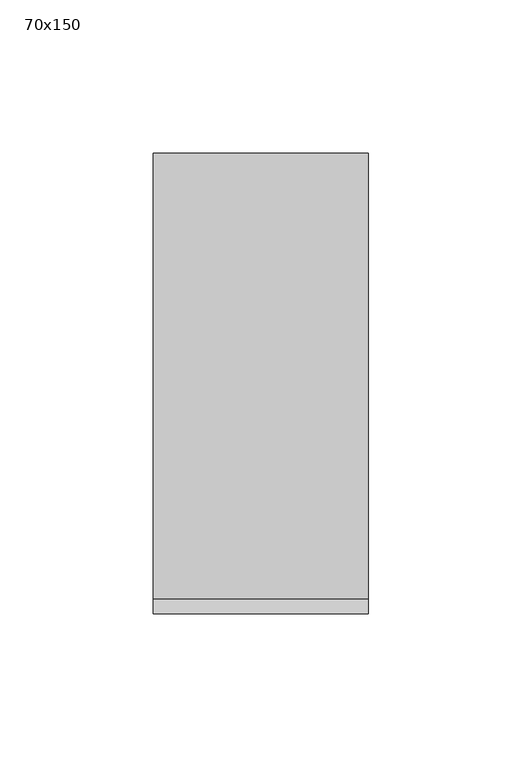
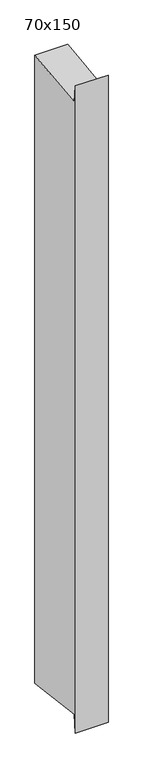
"""IFC4 building model written with IfcOpenShell, lengths in millimetres: member geometry, 長方形のマリオン : 70x150."""

from ifc_helpers import new_model, si_unit, frame, origin, place, context, project, spatial, polyline, outline, extrude, source, transform, mapped, element, save


def member_70x150_fd538d08(model_context):
    return source(origin(), model_context, "Body", "SweptSolid", [
        extrude(outline(polyline([(-75.0, 30.4253619), (-70.1901706, -8.8558999), (75.0, 8.9220411), (75.0, -1413.4545813), (-70.1901706, -1395.6766403), (-75.0, -1434.957902), (-75.0, 30.4253619)])), frame((-70.0, 0.0, 0.0), z_axis=(1.0, 0.0, 0.0), x_axis=(0.0, 1.0, 0.0)), (0.0, 0.0, 1.0), 70.0),
    ])


if __name__ == "__main__":
    model = new_model("IFC4")
    model_context = context("Model", 3, world=origin())
    ifc_project = project(units=[si_unit("LENGTHUNIT", "METRE", prefix="MILLI")], contexts=[model_context])
    site = spatial("IfcSite", under=ifc_project)
    building = spatial("IfcBuilding", under=site)
    placement = place(None, origin())
    member_70x150_shape = member_70x150_fd538d08(model_context)
    element("IfcMember", 1, ObjectType="長方形のマリオン : 70x150", at=placement, inside=building, context=model_context, shape_type="MappedRepresentation", body=[
        mapped(member_70x150_shape, transform((0.0, 0.0, 0.0), x_axis=(1.0, 0.0, 0.0), y_axis=(0.0, 1.0, 0.0), z_axis=(0.0, 0.0, 1.0))),
    ])
    save(model, "model.ifc")
